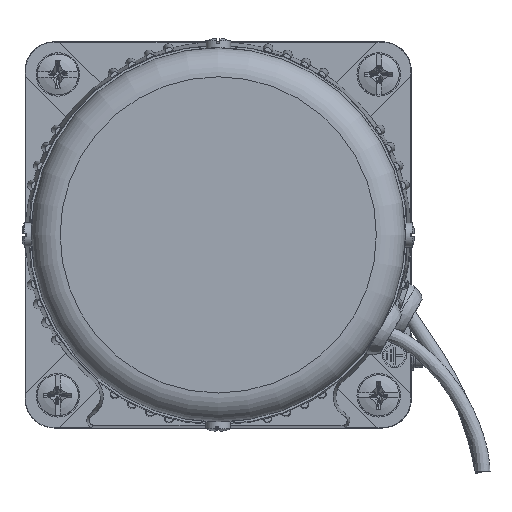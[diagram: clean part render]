
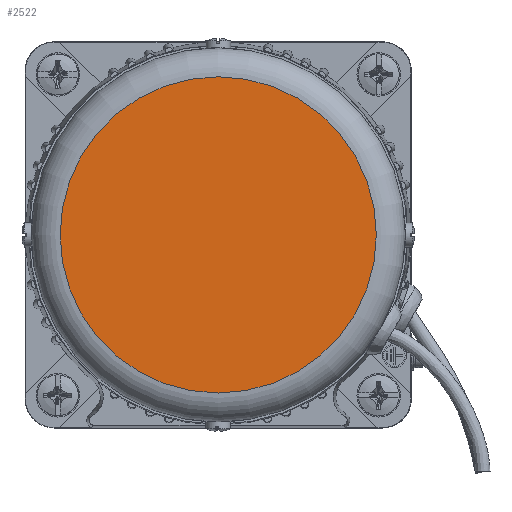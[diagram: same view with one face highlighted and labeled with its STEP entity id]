
A CAD part, left-side view. The second image highlights one B-rep face of the part: STEP entity #2522.
In plain terms, the highlighted planar face has unit normal (-1, 0, 0).
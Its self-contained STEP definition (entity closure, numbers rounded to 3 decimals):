
#2522=ADVANCED_FACE('',(#3683),#3152,.F.);
#3152=PLANE('',#15599);
#3683=FACE_OUTER_BOUND('',#4556,.T.);
#4556=EDGE_LOOP('',(#7276));
#7276=ORIENTED_EDGE('',*,*,#11987,.F.);
#10211=VERTEX_POINT('',#27122);
#11987=EDGE_CURVE('',#10211,#10211,#14840,.T.);
#14840=CIRCLE('',#15524,32.75);
#15524=AXIS2_PLACEMENT_3D('',#27121,#17057,#17058);
#15599=AXIS2_PLACEMENT_3D('',#30928,#17237,#17238);
#17057=DIRECTION('',(1.,0.,0.));
#17058=DIRECTION('',(0.,0.,-1.));
#17237=DIRECTION('',(1.,0.,0.));
#17238=DIRECTION('',(0.,0.,-1.));
#27121=CARTESIAN_POINT('',(-127.5,40.,40.));
#27122=CARTESIAN_POINT('',(-127.5,40.,7.25));
#30928=CARTESIAN_POINT('',(-127.5,40.,40.));
